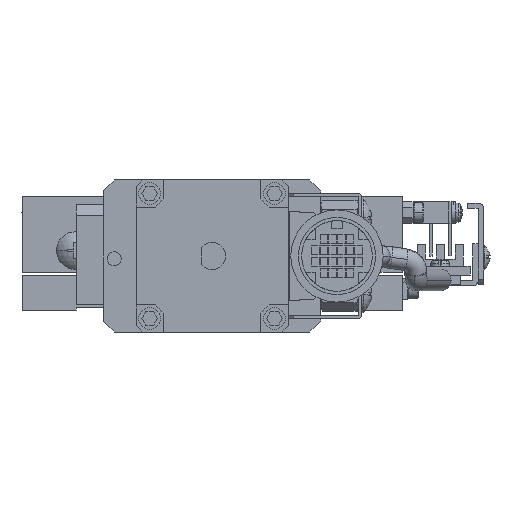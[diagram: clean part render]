
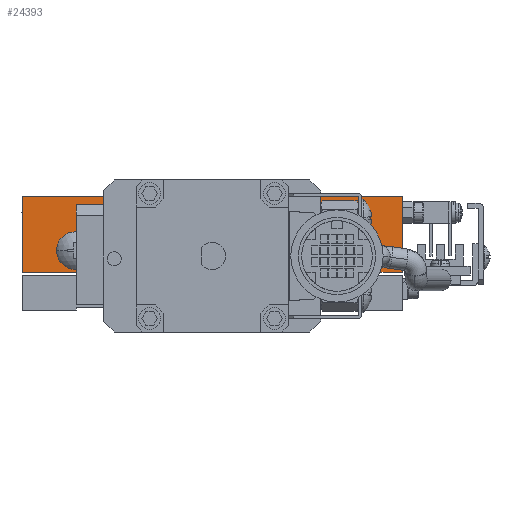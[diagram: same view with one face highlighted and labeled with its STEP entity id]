
A CAD part, left-side view. The second image highlights one B-rep face of the part: STEP entity #24393.
In plain terms, the highlighted planar face has unit normal (-1, 0, 0).
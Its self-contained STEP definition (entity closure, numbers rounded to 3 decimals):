
#724 = VECTOR ( 'NONE', #35535, 1000. ) ;
#2359 = VERTEX_POINT ( 'NONE', #63540 ) ;
#3253 = LINE ( 'NONE', #39816, #4847 ) ;
#3492 = AXIS2_PLACEMENT_3D ( 'NONE', #27478, #37313, #11535 ) ;
#3556 = AXIS2_PLACEMENT_3D ( 'NONE', #31601, #47529, #31817 ) ;
#3565 = LINE ( 'NONE', #34113, #54231 ) ;
#3684 = ORIENTED_EDGE ( 'NONE', *, *, #28418, .F. ) ;
#3771 = VERTEX_POINT ( 'NONE', #32587 ) ;
#3995 = ORIENTED_EDGE ( 'NONE', *, *, #46886, .F. ) ;
#4784 = DIRECTION ( 'NONE',  ( 0., 1., 0. ) ) ;
#4847 = VECTOR ( 'NONE', #24852, 1000. ) ;
#5298 = AXIS2_PLACEMENT_3D ( 'NONE', #11884, #17290, #6675 ) ;
#5369 = VERTEX_POINT ( 'NONE', #23363 ) ;
#6675 = DIRECTION ( 'NONE',  ( 0., 1., 0. ) ) ;
#6993 = CARTESIAN_POINT ( 'NONE',  ( -35., 20.9, 7. ) ) ;
#7774 = VERTEX_POINT ( 'NONE', #29501 ) ;
#8149 = ORIENTED_EDGE ( 'NONE', *, *, #34900, .F. ) ;
#9844 = CARTESIAN_POINT ( 'NONE',  ( -35., 21.75, 11. ) ) ;
#11220 = CARTESIAN_POINT ( 'NONE',  ( -35., 35., 21. ) ) ;
#11535 = DIRECTION ( 'NONE',  ( 0., 1., 0. ) ) ;
#11884 = CARTESIAN_POINT ( 'NONE',  ( -35., -25.2, 11. ) ) ;
#12536 = CIRCLE ( 'NONE', #3492, 3.45 ) ;
#13070 = AXIS2_PLACEMENT_3D ( 'NONE', #66337, #24870, #4784 ) ;
#14843 = VERTEX_POINT ( 'NONE', #47479 ) ;
#15074 = ORIENTED_EDGE ( 'NONE', *, *, #17632, .F. ) ;
#16216 = VECTOR ( 'NONE', #24021, 1000. ) ;
#16318 = CARTESIAN_POINT ( 'NONE',  ( -35., 20.9, 15.5 ) ) ;
#17290 = DIRECTION ( 'NONE',  ( -1., 0., 0. ) ) ;
#17632 = EDGE_CURVE ( 'NONE', #50701, #35533, #12536, .T. ) ;
#18506 = CIRCLE ( 'NONE', #3556, 3.45 ) ;
#21151 = LINE ( 'NONE', #45251, #33136 ) ;
#22203 = FACE_BOUND ( 'NONE', #55156, .T. ) ;
#23292 = ORIENTED_EDGE ( 'NONE', *, *, #39532, .F. ) ;
#23363 = CARTESIAN_POINT ( 'NONE',  ( -35., -35., 21. ) ) ;
#24021 = DIRECTION ( 'NONE',  ( 0., 1., 0. ) ) ;
#24393 = ADVANCED_FACE ( 'NONE', ( #39751, #22203, #64686 ), #65565, .T. ) ;
#24731 = DIRECTION ( 'NONE',  ( 0., 0., 1. ) ) ;
#24852 = DIRECTION ( 'NONE',  ( 0., 1., 0. ) ) ;
#24870 = DIRECTION ( 'NONE',  ( -1., 0., 0. ) ) ;
#25177 = DIRECTION ( 'NONE',  ( -1., 0., 0. ) ) ;
#25814 = ORIENTED_EDGE ( 'NONE', *, *, #40459, .F. ) ;
#26473 = CIRCLE ( 'NONE', #13070, 3.45 ) ;
#27349 = ORIENTED_EDGE ( 'NONE', *, *, #31761, .F. ) ;
#27478 = CARTESIAN_POINT ( 'NONE',  ( -35., 25.2, 11. ) ) ;
#27959 = ORIENTED_EDGE ( 'NONE', *, *, #37833, .F. ) ;
#28418 = EDGE_CURVE ( 'NONE', #14843, #3771, #44940, .T. ) ;
#29223 = CIRCLE ( 'NONE', #5298, 3.45 ) ;
#29501 = CARTESIAN_POINT ( 'NONE',  ( -35., -21.75, 11. ) ) ;
#29586 = ORIENTED_EDGE ( 'NONE', *, *, #49557, .F. ) ;
#31561 = DIRECTION ( 'NONE',  ( 0., 0., -1. ) ) ;
#31601 = CARTESIAN_POINT ( 'NONE',  ( -35., 25.2, 11. ) ) ;
#31761 = EDGE_CURVE ( 'NONE', #57788, #42424, #55825, .T. ) ;
#31817 = DIRECTION ( 'NONE',  ( 0., 1., 0. ) ) ;
#32587 = CARTESIAN_POINT ( 'NONE',  ( -35., 35., 21. ) ) ;
#33136 = VECTOR ( 'NONE', #66372, 1000. ) ;
#34113 = CARTESIAN_POINT ( 'NONE',  ( -35., 29.5, 7. ) ) ;
#34900 = EDGE_CURVE ( 'NONE', #3771, #5369, #61297, .T. ) ;
#35533 = VERTEX_POINT ( 'NONE', #53361 ) ;
#35535 = DIRECTION ( 'NONE',  ( 0., 0., 1. ) ) ;
#36928 = ORIENTED_EDGE ( 'NONE', *, *, #38224, .F. ) ;
#37313 = DIRECTION ( 'NONE',  ( -1., 0., 0. ) ) ;
#37454 = CARTESIAN_POINT ( 'NONE',  ( -35., -35., 7. ) ) ;
#37833 = EDGE_CURVE ( 'NONE', #35533, #50701, #18506, .T. ) ;
#38224 = EDGE_CURVE ( 'NONE', #43316, #7774, #26473, .T. ) ;
#39023 = VERTEX_POINT ( 'NONE', #63795 ) ;
#39437 = CARTESIAN_POINT ( 'NONE',  ( -35., -35., 7. ) ) ;
#39532 = EDGE_CURVE ( 'NONE', #7774, #43316, #29223, .T. ) ;
#39605 = VECTOR ( 'NONE', #57446, 1000. ) ;
#39751 = FACE_OUTER_BOUND ( 'NONE', #66061, .T. ) ;
#39816 = CARTESIAN_POINT ( 'NONE',  ( -35., -20.9, 15.5 ) ) ;
#40459 = EDGE_CURVE ( 'NONE', #57337, #2359, #44333, .T. ) ;
#42424 = VERTEX_POINT ( 'NONE', #6993 ) ;
#43010 = LINE ( 'NONE', #51406, #52690 ) ;
#43316 = VERTEX_POINT ( 'NONE', #61734 ) ;
#44207 = DIRECTION ( 'NONE',  ( 0., 1., 0. ) ) ;
#44333 = LINE ( 'NONE', #39437, #16216 ) ;
#44755 = EDGE_LOOP ( 'NONE', ( #27959, #15074 ) ) ;
#44940 = LINE ( 'NONE', #66286, #724 ) ;
#45251 = CARTESIAN_POINT ( 'NONE',  ( -35., -35., 21. ) ) ;
#46886 = EDGE_CURVE ( 'NONE', #2359, #39023, #43010, .T. ) ;
#47075 = EDGE_CURVE ( 'NONE', #42424, #14843, #3565, .T. ) ;
#47479 = CARTESIAN_POINT ( 'NONE',  ( -35., 35., 7. ) ) ;
#47529 = DIRECTION ( 'NONE',  ( -1., 0., 0. ) ) ;
#48202 = ORIENTED_EDGE ( 'NONE', *, *, #47075, .F. ) ;
#49377 = VECTOR ( 'NONE', #31561, 1000. ) ;
#49557 = EDGE_CURVE ( 'NONE', #39023, #57788, #3253, .T. ) ;
#50701 = VERTEX_POINT ( 'NONE', #9844 ) ;
#51406 = CARTESIAN_POINT ( 'NONE',  ( -35., -20.9, 15. ) ) ;
#52690 = VECTOR ( 'NONE', #62188, 1000. ) ;
#53361 = CARTESIAN_POINT ( 'NONE',  ( -35., 28.65, 11. ) ) ;
#54231 = VECTOR ( 'NONE', #44207, 1000. ) ;
#55156 = EDGE_LOOP ( 'NONE', ( #23292, #36928 ) ) ;
#55423 = CARTESIAN_POINT ( 'NONE',  ( -35., 0., 21. ) ) ;
#55825 = LINE ( 'NONE', #56699, #49377 ) ;
#56699 = CARTESIAN_POINT ( 'NONE',  ( -35., 20.9, 15.5 ) ) ;
#57337 = VERTEX_POINT ( 'NONE', #37454 ) ;
#57446 = DIRECTION ( 'NONE',  ( 0., -1., 0. ) ) ;
#57788 = VERTEX_POINT ( 'NONE', #16318 ) ;
#59805 = EDGE_CURVE ( 'NONE', #5369, #57337, #21151, .T. ) ;
#59984 = ORIENTED_EDGE ( 'NONE', *, *, #59805, .F. ) ;
#61297 = LINE ( 'NONE', #11220, #39605 ) ;
#61734 = CARTESIAN_POINT ( 'NONE',  ( -35., -28.65, 11. ) ) ;
#62188 = DIRECTION ( 'NONE',  ( 0., 0., 1. ) ) ;
#62721 = AXIS2_PLACEMENT_3D ( 'NONE', #55423, #25177, #24731 ) ;
#63540 = CARTESIAN_POINT ( 'NONE',  ( -35., -20.9, 7. ) ) ;
#63795 = CARTESIAN_POINT ( 'NONE',  ( -35., -20.9, 15.5 ) ) ;
#64686 = FACE_BOUND ( 'NONE', #44755, .T. ) ;
#65565 = PLANE ( 'NONE',  #62721 ) ;
#66061 = EDGE_LOOP ( 'NONE', ( #3995, #25814, #59984, #8149, #3684, #48202, #27349, #29586 ) ) ;
#66286 = CARTESIAN_POINT ( 'NONE',  ( -35., 35., 7. ) ) ;
#66337 = CARTESIAN_POINT ( 'NONE',  ( -35., -25.2, 11. ) ) ;
#66372 = DIRECTION ( 'NONE',  ( 0., 0., -1. ) ) ;
